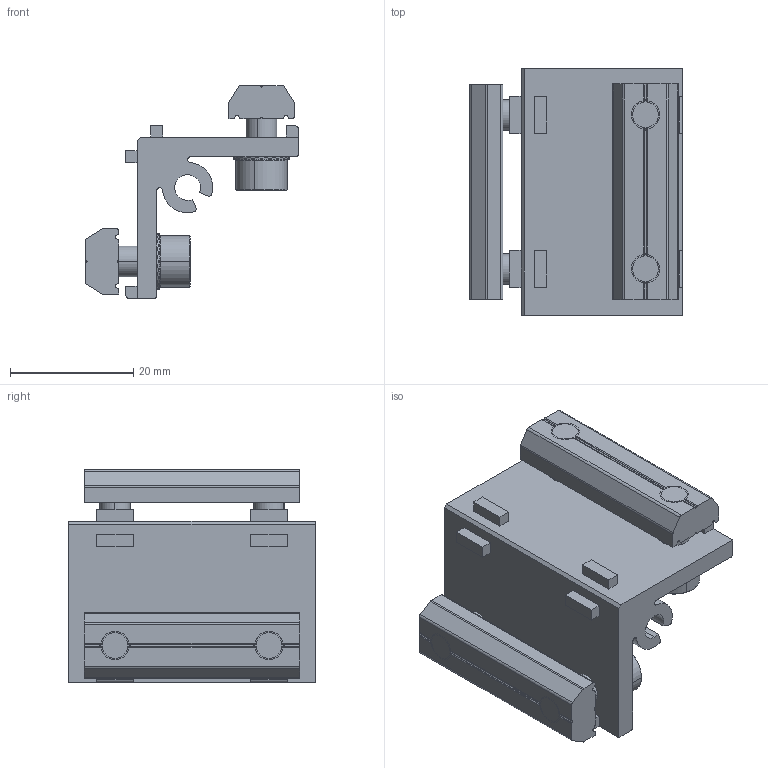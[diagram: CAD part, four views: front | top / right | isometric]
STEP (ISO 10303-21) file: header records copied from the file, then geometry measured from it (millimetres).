
FILE_DESCRIPTION (( 'STEP AP214' ), '1' );
FILE_NAME ('SMBD3-2550T.STEP', '2022-12-13T06:50:11', ( '' ), ( '' ), 'SwSTEP 2.0', 'SolidWorks 2018', '' );
FILE_SCHEMA (( 'AUTOMOTIVE_DESIGN' ));
Length unit declared in the file: millimetre
Products named in the file (5): SMBD3-2550T; PTS-M5; SMBD3-2550; PTC-M5L12; PTN-M5P25
Assembly tree (11 placements, depth 2):
  SMBD3-2550T
    SMBD3-2550
    PTN-M5P25  x2
    PTC-M5L12  x4
    PTS-M5  x4
Bounding box: 34.55 x 40 x 34.55 mm (x, y, z)
Volume: 13197.1 mm3; surface area: 10629.8 mm2
Topology: 11 solids, 11 shells, 930 faces, 2712 edges, 1800 vertices
Faces by surface type: plane 783, cylinder 123, cone 24
Entity records: 10859 total; most frequent: CARTESIAN_POINT 2008, ORIENTED_EDGE 1842, DIRECTION 1809, EDGE_CURVE 921, VERTEX_POINT 612, AXIS2_PLACEMENT_3D 605, VECTOR 599, LINE 599
